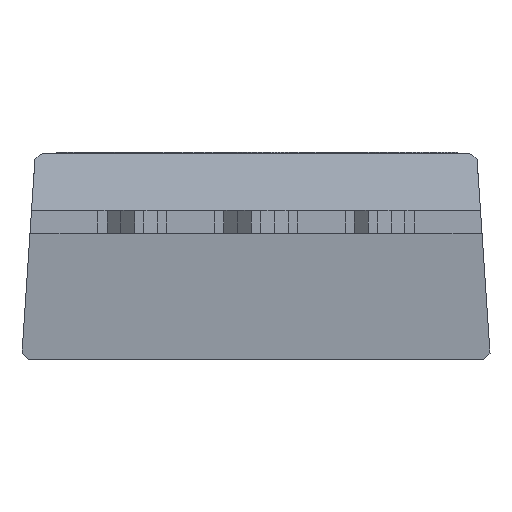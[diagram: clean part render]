
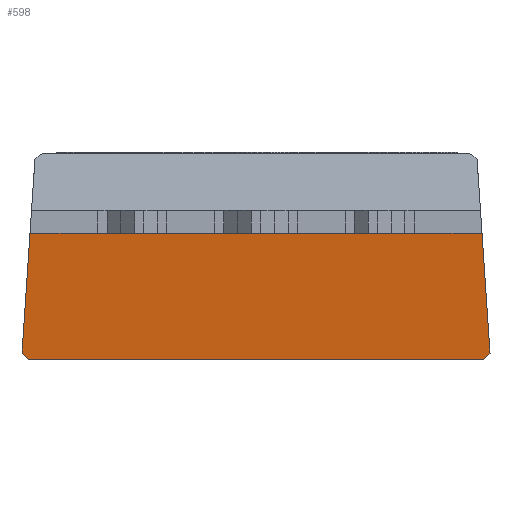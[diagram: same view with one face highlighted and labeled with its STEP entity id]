
A CAD part, front view. The second image highlights one B-rep face of the part: STEP entity #598.
In plain terms, the highlighted planar face has unit normal (0, -0.994, -0.108).
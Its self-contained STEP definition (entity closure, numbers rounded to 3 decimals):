
#249 = CARTESIAN_POINT ( 'NONE',  ( 3.24, 0., 2.273 ) ) ;
#273 = VERTEX_POINT ( 'NONE', #2611 ) ;
#281 = EDGE_CURVE ( 'NONE', #4955, #3979, #7358, .T. ) ;
#358 = CARTESIAN_POINT ( 'NONE',  ( -5.09, 0.284, -0.327 ) ) ;
#379 = ORIENTED_EDGE ( 'NONE', *, *, #900, .T. ) ;
#487 = CARTESIAN_POINT ( 'NONE',  ( -4.95, 0.3, -0.477 ) ) ;
#490 = CARTESIAN_POINT ( 'NONE',  ( 5.1, 0., 2.273 ) ) ;
#508 = LINE ( 'NONE', #358, #3881 ) ;
#598 = ADVANCED_FACE ( 'NONE', ( #635 ), #8546, .T. ) ;
#635 = FACE_OUTER_BOUND ( 'NONE', #9865, .T. ) ;
#706 = EDGE_CURVE ( 'NONE', #7434, #2514, #7050, .T. ) ;
#766 = CARTESIAN_POINT ( 'NONE',  ( -0.7, 0., 2.273 ) ) ;
#778 = CARTESIAN_POINT ( 'NONE',  ( 0.7, 0., 2.273 ) ) ;
#826 = LINE ( 'NONE', #778, #5341 ) ;
#900 = EDGE_CURVE ( 'NONE', #3544, #3039, #8628, .T. ) ;
#908 = VERTEX_POINT ( 'NONE', #766 ) ;
#1170 = VECTOR ( 'NONE', #1920, 1000. ) ;
#1239 = CARTESIAN_POINT ( 'NONE',  ( -4.917, 0., 2.273 ) ) ;
#1920 = DIRECTION ( 'NONE',  ( 1., 0., 0. ) ) ;
#1971 = CARTESIAN_POINT ( 'NONE',  ( -4.917, 0., 2.273 ) ) ;
#1988 = VECTOR ( 'NONE', #6215, 1000. ) ;
#2055 = EDGE_CURVE ( 'NONE', #4955, #5543, #5189, .T. ) ;
#2070 = LINE ( 'NONE', #1239, #4396 ) ;
#2247 = CARTESIAN_POINT ( 'NONE',  ( 5.09, 0.284, -0.327 ) ) ;
#2514 = VERTEX_POINT ( 'NONE', #487 ) ;
#2611 = CARTESIAN_POINT ( 'NONE',  ( 0.7, 0., 2.273 ) ) ;
#2767 = EDGE_CURVE ( 'NONE', #7434, #3544, #4538, .T. ) ;
#3028 = CARTESIAN_POINT ( 'NONE',  ( 5.1, 0., 2.273 ) ) ;
#3039 = VERTEX_POINT ( 'NONE', #4750 ) ;
#3335 = CARTESIAN_POINT ( 'NONE',  ( -5.09, 0.284, -0.327 ) ) ;
#3436 = DIRECTION ( 'NONE',  ( -1., 0., 0. ) ) ;
#3544 = VERTEX_POINT ( 'NONE', #2247 ) ;
#3571 = VERTEX_POINT ( 'NONE', #3335 ) ;
#3673 = VECTOR ( 'NONE', #3436, 1000. ) ;
#3881 = VECTOR ( 'NONE', #10079, 1000. ) ;
#3979 = VERTEX_POINT ( 'NONE', #5267 ) ;
#4199 = LINE ( 'NONE', #249, #8468 ) ;
#4236 = CARTESIAN_POINT ( 'NONE',  ( 2.14, 0., 2.273 ) ) ;
#4372 = DIRECTION ( 'NONE',  ( 0., 0.108, -0.994 ) ) ;
#4396 = VECTOR ( 'NONE', #4401, 1000. ) ;
#4401 = DIRECTION ( 'NONE',  ( -0.066, 0.108, -0.992 ) ) ;
#4538 = LINE ( 'NONE', #6168, #6425 ) ;
#4557 = DIRECTION ( 'NONE',  ( -1., 0., 0. ) ) ;
#4563 = LINE ( 'NONE', #8721, #7411 ) ;
#4593 = LINE ( 'NONE', #3028, #1988 ) ;
#4632 = CARTESIAN_POINT ( 'NONE',  ( 5.09, 0.284, -0.327 ) ) ;
#4750 = CARTESIAN_POINT ( 'NONE',  ( 4.917, 0., 2.273 ) ) ;
#4955 = VERTEX_POINT ( 'NONE', #5873 ) ;
#5189 = LINE ( 'NONE', #490, #9436 ) ;
#5267 = CARTESIAN_POINT ( 'NONE',  ( -2.14, 0., 2.273 ) ) ;
#5341 = VECTOR ( 'NONE', #9703, 1000. ) ;
#5355 = EDGE_CURVE ( 'NONE', #908, #3979, #4593, .T. ) ;
#5388 = DIRECTION ( 'NONE',  ( 0.681, -0.079, 0.728 ) ) ;
#5531 = AXIS2_PLACEMENT_3D ( 'NONE', #8420, #5910, #4372 ) ;
#5543 = VERTEX_POINT ( 'NONE', #1971 ) ;
#5770 = EDGE_CURVE ( 'NONE', #908, #273, #826, .T. ) ;
#5873 = CARTESIAN_POINT ( 'NONE',  ( -3.24, 0., 2.273 ) ) ;
#5910 = DIRECTION ( 'NONE',  ( 0., -0.994, -0.108 ) ) ;
#6012 = VECTOR ( 'NONE', #4557, 1000. ) ;
#6030 = EDGE_CURVE ( 'NONE', #3039, #6634, #6916, .T. ) ;
#6168 = CARTESIAN_POINT ( 'NONE',  ( 4.95, 0.3, -0.477 ) ) ;
#6215 = DIRECTION ( 'NONE',  ( -1., 0., 0. ) ) ;
#6384 = ORIENTED_EDGE ( 'NONE', *, *, #7115, .T. ) ;
#6425 = VECTOR ( 'NONE', #5388, 1000. ) ;
#6634 = VERTEX_POINT ( 'NONE', #10341 ) ;
#6703 = ORIENTED_EDGE ( 'NONE', *, *, #281, .F. ) ;
#6762 = ORIENTED_EDGE ( 'NONE', *, *, #5355, .T. ) ;
#6916 = LINE ( 'NONE', #10164, #6012 ) ;
#7050 = LINE ( 'NONE', #7896, #3673 ) ;
#7115 = EDGE_CURVE ( 'NONE', #3571, #2514, #508, .T. ) ;
#7219 = ORIENTED_EDGE ( 'NONE', *, *, #9283, .F. ) ;
#7358 = LINE ( 'NONE', #7510, #1170 ) ;
#7411 = VECTOR ( 'NONE', #7763, 1000. ) ;
#7434 = VERTEX_POINT ( 'NONE', #8955 ) ;
#7510 = CARTESIAN_POINT ( 'NONE',  ( -1.84, 0., 2.273 ) ) ;
#7677 = EDGE_CURVE ( 'NONE', #5543, #3571, #2070, .T. ) ;
#7763 = DIRECTION ( 'NONE',  ( -1., 0., 0. ) ) ;
#7804 = EDGE_CURVE ( 'NONE', #8781, #273, #4563, .T. ) ;
#7829 = DIRECTION ( 'NONE',  ( -0.066, -0.108, 0.992 ) ) ;
#7896 = CARTESIAN_POINT ( 'NONE',  ( -5.1, 0.3, -0.477 ) ) ;
#8127 = ORIENTED_EDGE ( 'NONE', *, *, #7804, .T. ) ;
#8233 = ORIENTED_EDGE ( 'NONE', *, *, #5770, .F. ) ;
#8258 = ORIENTED_EDGE ( 'NONE', *, *, #2767, .T. ) ;
#8346 = DIRECTION ( 'NONE',  ( 1., 0., 0. ) ) ;
#8389 = DIRECTION ( 'NONE',  ( -1., 0., 0. ) ) ;
#8420 = CARTESIAN_POINT ( 'NONE',  ( 5.1, 0., 2.273 ) ) ;
#8468 = VECTOR ( 'NONE', #8346, 1000. ) ;
#8546 = PLANE ( 'NONE',  #5531 ) ;
#8628 = LINE ( 'NONE', #4632, #10091 ) ;
#8721 = CARTESIAN_POINT ( 'NONE',  ( 5.1, 0., 2.273 ) ) ;
#8762 = ORIENTED_EDGE ( 'NONE', *, *, #6030, .T. ) ;
#8781 = VERTEX_POINT ( 'NONE', #4236 ) ;
#8955 = CARTESIAN_POINT ( 'NONE',  ( 4.95, 0.3, -0.477 ) ) ;
#9015 = ORIENTED_EDGE ( 'NONE', *, *, #706, .F. ) ;
#9280 = ORIENTED_EDGE ( 'NONE', *, *, #7677, .T. ) ;
#9283 = EDGE_CURVE ( 'NONE', #8781, #6634, #4199, .T. ) ;
#9436 = VECTOR ( 'NONE', #8389, 1000. ) ;
#9691 = ORIENTED_EDGE ( 'NONE', *, *, #2055, .T. ) ;
#9703 = DIRECTION ( 'NONE',  ( 1., 0., 0. ) ) ;
#9865 = EDGE_LOOP ( 'NONE', ( #9691, #9280, #6384, #9015, #8258, #379, #8762, #7219, #8127, #8233, #6762, #6703 ) ) ;
#10079 = DIRECTION ( 'NONE',  ( 0.681, 0.079, -0.728 ) ) ;
#10091 = VECTOR ( 'NONE', #7829, 1000. ) ;
#10164 = CARTESIAN_POINT ( 'NONE',  ( 5.1, 0., 2.273 ) ) ;
#10341 = CARTESIAN_POINT ( 'NONE',  ( 3.24, 0., 2.273 ) ) ;
